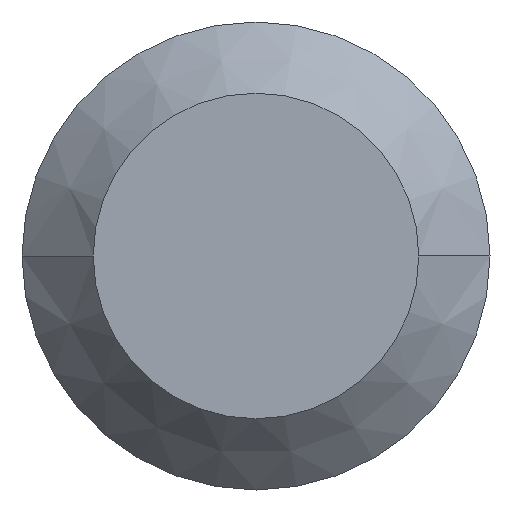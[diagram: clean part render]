
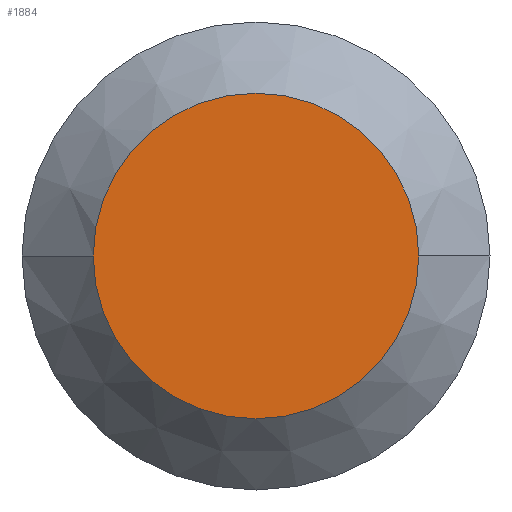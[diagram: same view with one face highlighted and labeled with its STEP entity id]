
A CAD part, front view. The second image highlights one B-rep face of the part: STEP entity #1884.
In plain terms, the highlighted planar face has unit normal (0, -1, 0).
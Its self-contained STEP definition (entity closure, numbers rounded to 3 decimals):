
#212 = VERTEX_POINT ( 'NONE', #260 ) ;
#260 = CARTESIAN_POINT ( 'NONE',  ( 8., 0., 0. ) ) ;
#440 = EDGE_CURVE ( 'NONE', #1973, #212, #2009, .T. ) ;
#514 = CARTESIAN_POINT ( 'NONE',  ( 0., 0., 0. ) ) ;
#515 = DIRECTION ( 'NONE',  ( 0., 1., 0. ) ) ;
#516 = DIRECTION ( 'NONE',  ( -1., 0., 0. ) ) ;
#725 = CARTESIAN_POINT ( 'NONE',  ( -8., 0., 0. ) ) ;
#727 = FACE_OUTER_BOUND ( 'NONE', #952, .T. ) ;
#728 = PLANE ( 'NONE',  #1648 ) ;
#731 = DIRECTION ( 'NONE',  ( 0., -1., 0. ) ) ;
#732 = DIRECTION ( 'NONE',  ( 1., 0., 0. ) ) ;
#761 = CARTESIAN_POINT ( 'NONE',  ( 0., 0., 0. ) ) ;
#762 = DIRECTION ( 'NONE',  ( 0., 1., 0. ) ) ;
#763 = DIRECTION ( 'NONE',  ( -1., 0., 0. ) ) ;
#952 = EDGE_LOOP ( 'NONE', ( #1008, #1009 ) ) ;
#1008 = ORIENTED_EDGE ( 'NONE', *, *, #440, .F. ) ;
#1009 = ORIENTED_EDGE ( 'NONE', *, *, #1919, .F. ) ;
#1648 = AXIS2_PLACEMENT_3D ( 'NONE', #725, #731, #732 ) ;
#1660 = CIRCLE ( 'NONE', #1663, 8. ) ;
#1663 = AXIS2_PLACEMENT_3D ( 'NONE', #761, #762, #763 ) ;
#1851 = CARTESIAN_POINT ( 'NONE',  ( -8., 0., 0. ) ) ;
#1884 = ADVANCED_FACE ( 'NONE', ( #727 ), #728, .T. ) ;
#1919 = EDGE_CURVE ( 'NONE', #212, #1973, #1660, .T. ) ;
#1973 = VERTEX_POINT ( 'NONE', #1851 ) ;
#2005 = AXIS2_PLACEMENT_3D ( 'NONE', #514, #515, #516 ) ;
#2009 = CIRCLE ( 'NONE', #2005, 8. ) ;
